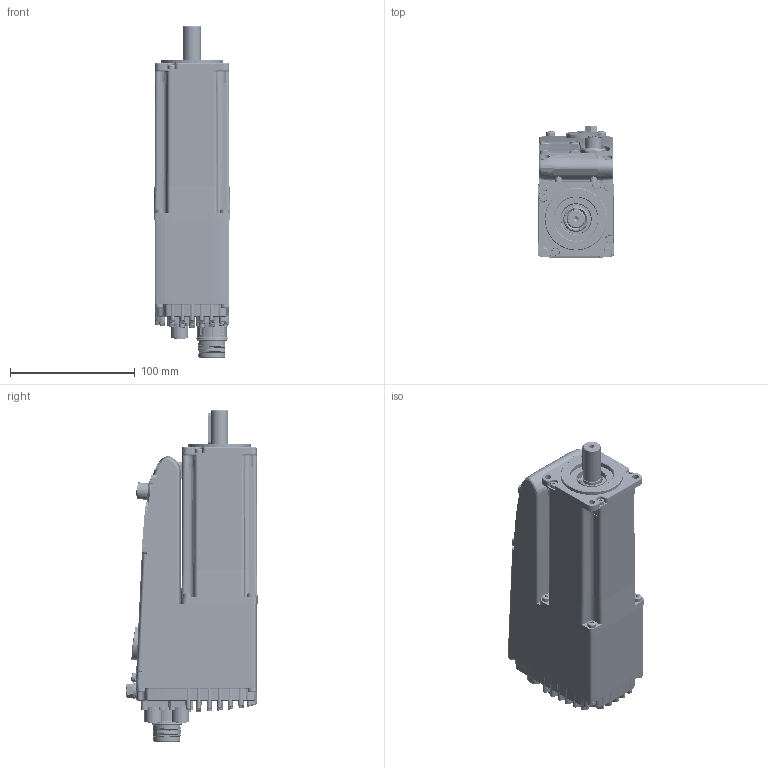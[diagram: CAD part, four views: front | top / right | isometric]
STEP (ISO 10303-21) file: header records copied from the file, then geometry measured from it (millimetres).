
FILE_DESCRIPTION(/* description */ ('Unknown'),/* implementation_level */ '2;1');
FILE_NAME(/* name */ 'DUET60 1,3 A5 0 E 1 (Q0C002)',/* time_stamp */ '2020-11-04T15:23:42+01:00',/* author */ ('Unknown'),/* organization */ ('Unknown'),/* preprocessor_version */ 'ST-DEVELOPER v16.7',/* originating_system */ 'DEX',/* authorisation */ $);
FILE_SCHEMA (('AUTOMOTIVE_DESIGN {1 0 10303 214 3 1 1}'));
Products named in the file (52): DUET60 1,3 A5 0 E 1 (Q0C002); 003251021030; 005123000690; 005123000690_0; 005123000690_1; 005123000690_2; 005123000690_3; 005123000690_4; 005123000690_5; 005123000690_6; 005755000060; 005751000100; 005123000100; 005123000100_0; 005123000100_1; 005123000100_2; 005123000100_3; 005123000100_4; 005123000100_5; 005911000198; 005113000400; 003108002506; 005911000182; 005008000510-oa0; 005008000740-oa1; 005008000744-oa2; 005007000200; MD031601.1.0; 005911000495; V_VTCTX3X10(8.8); 005119001310; 005119001310_0; 003003199480; 003120003043; 052400000001; LC431503.0.0; J_4302729; J_7601000000; J_7084943121; MD031604.0.0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
Assembly tree (83 placements, depth 4):
  DUET60 1,3 A5 0 E 1 (Q0C002)
    003251021030
    005123000690
    005123000690_0
    005123000690_1
    005123000690_2
    005123000690_3
    005123000690_4
    005123000690_5
    005123000690_6
    005755000060
    005751000100
    005123000100
    005123000100_0
    005123000100_1
    005123000100_2
    005123000100_3
    005123000100_4
    005123000100_5
    005911000198  x4
    005113000400
    003108002506
    005911000182
    005008000510-oa0
    005008000740-oa1
    005008000744-oa2
    005007000200
    MD031601.1.0
    005911000495  x4
    V_VTCTX3X10(8.8)
    005119001310
    005119001310_0
    003003199480
    003120003043
    052400000001
      LC431503.0.0
        J_4302729  x2
        J_7601000000
        V_VTCTX3X10(8.8)  x11
        J_7084943121
        MD031604.0.0
        V_RP6
      MD031607.0.0
      MD031608.0.0
      V_VTCTX40X12A  x12
      V_VTCTXK30X8  x5
      MD031609.0.0
      V_V027400610
      169692
      MD081003.2.0
      MD141520.0.0
      CONEC-43-01063
Bounding box: 61.32 x 105.22 x 265.8 mm (x, y, z)
Volume: 402076.6 mm3; surface area: 258188.6 mm2
Topology: 82 solids, 83 shells, 4435 faces, 11059 edges, 6995 vertices
Faces by surface type: plane 1866, cylinder 1157, bspline 564, cone 387, torus 382, sphere 79
Full cylindrical faces by diameter (mm): 0.8 x8, 0.9 x8, 1.1 x8, 1.2 x4, 1.3 x8, 1.4 x8, 1.5 x8, 1.7 x2, 2.2 x5, 2.4 x15, 2.459 x11, 2.5 x21, 3 x26, 3.2 x25, 3.242 x1, 3.3 x1, 3.4 x8, 3.5 x14, 4 x14, 4.2 x3, 4.5 x6, 5 x7, 5.5 x22, 5.6 x5, 6 x22, 6.4 x1, 7 x12, 8 x2, 9.99 x1, 10 x2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
Entity records: 151399 total; most frequent: CARTESIAN_POINT 47194, ORIENTED_EDGE 17378, DIRECTION 16982, EDGE_CURVE 8689, AXIS2_PLACEMENT_3D 6612, VERTEX_POINT 5825, FACE_BOUND 4804, EDGE_LOOP 4750
